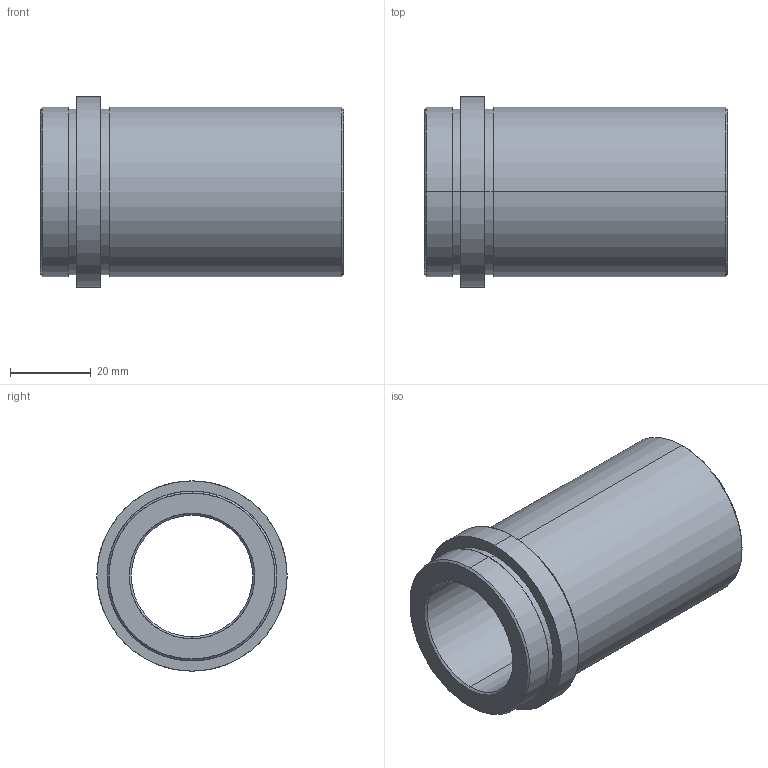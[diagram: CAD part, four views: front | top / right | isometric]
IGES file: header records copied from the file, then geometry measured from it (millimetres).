
Start section: SolidWorks IGES FILE using analytic representation for surfaces
Global section: file name: D:\zzzzz\Delta\D21\30\D21 - 30x66.IGS; native system: SolidWorks 2004 by SolidWorks Corporation; preprocessor: Version 5.3; author: Hkn; date: 080326.192945; units: millimetre
Bounding box: 75 x 47 x 47 mm (x, y, z)
Surface area: 19230.7 mm2 (no closed solid volume)
Topology: 0 solids, 0 shells, 26 faces, 848 edges, 848 vertices
Faces by surface type: revolution 20, bspline 6
